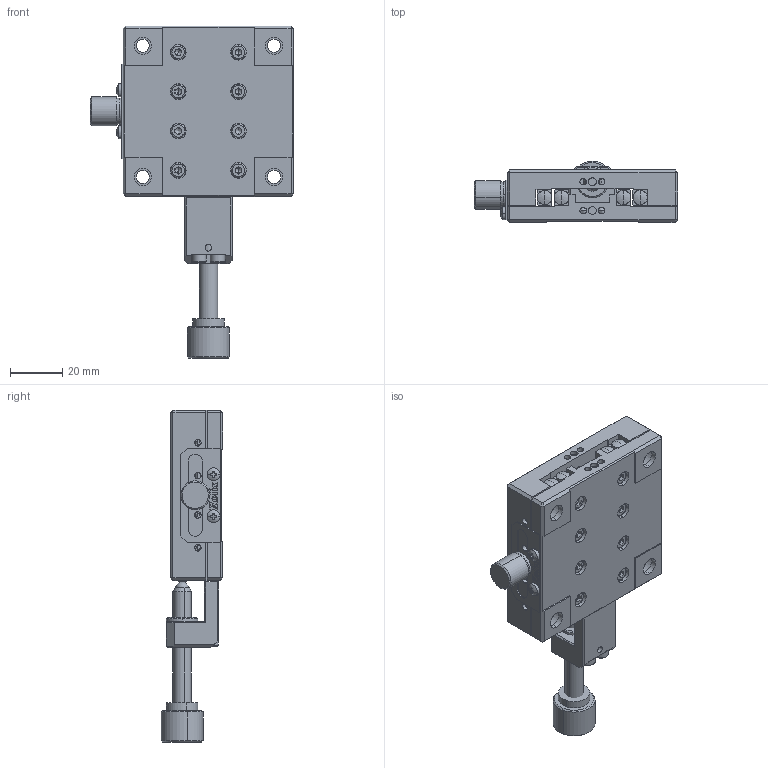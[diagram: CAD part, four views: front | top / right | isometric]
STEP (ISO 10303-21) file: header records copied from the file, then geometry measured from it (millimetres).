
FILE_DESCRIPTION (( 'STEP AP203' ), '1' );
FILE_NAME ('AK25-6520C.step', '2019-05-08T06:29:20', ( '' ), ( '' ), 'SwSTEP 2.0', 'SolidWorks 2017', '' );
FILE_SCHEMA (( 'CONFIG_CONTROL_DESIGN' ));
Length unit declared in the file: millimetre
Products named in the file (1): AK25-6520C
Bounding box: 77.5 x 23.47 x 126.5 mm (x, y, z)
Surface area: 34599.1 mm2 (no closed solid volume)
Topology: 0 solids, 42 shells, 663 faces, 2285 edges, 1554 vertices
Faces by surface type: plane 379, cylinder 162, cone 64, torus 36, bspline 16, sphere 6
Entity records: 24683 total; most frequent: CARTESIAN_POINT 4953, DIRECTION 4250, ORIENTED_EDGE 3593, EDGE_CURVE 2233, VERTEX_POINT 1554, AXIS2_PLACEMENT_3D 1421, LINE 1408, VECTOR 1408
